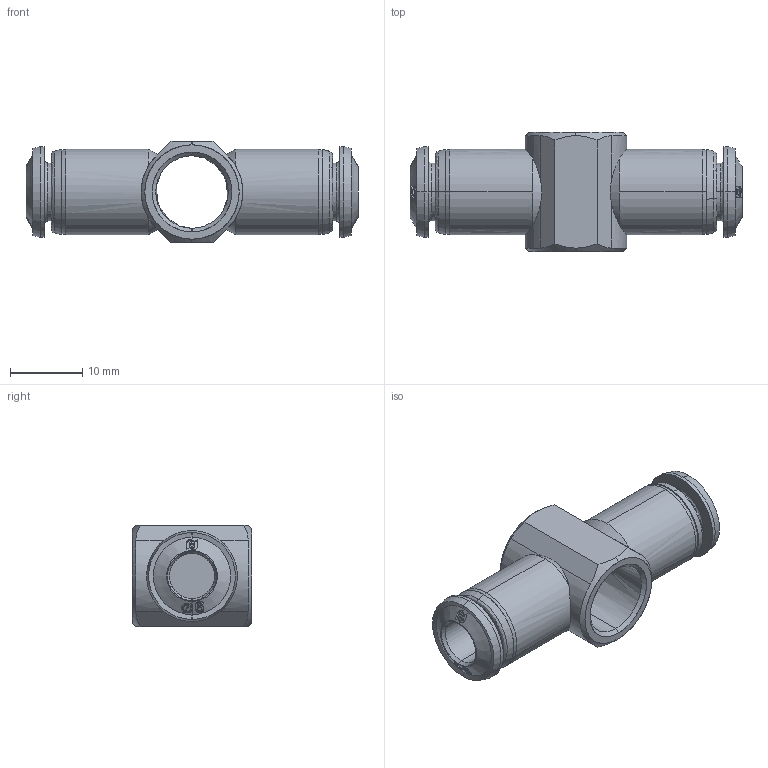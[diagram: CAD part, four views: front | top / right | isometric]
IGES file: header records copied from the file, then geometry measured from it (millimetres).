
Start section: SolidWorks IGES file using analytic representation for surfaces
Global section: file name: K:\Disegni Esecutivi\Serie 55000\ASSIEMI_55000\55510\ASSIEMI_PIENI_55510\5551000010.IGS; native system: SolidWorks 2007; preprocessor: SolidWorks 2007; author: cad02; date: 071130.160750; units: millimetre
Bounding box: 45.8 x 16.5 x 14 mm (x, y, z)
Surface area: 3143.1 mm2 (no closed solid volume)
Topology: 0 solids, 0 shells, 222 faces, 2830 edges, 2830 vertices
Faces by surface type: bspline 128, revolution 94
